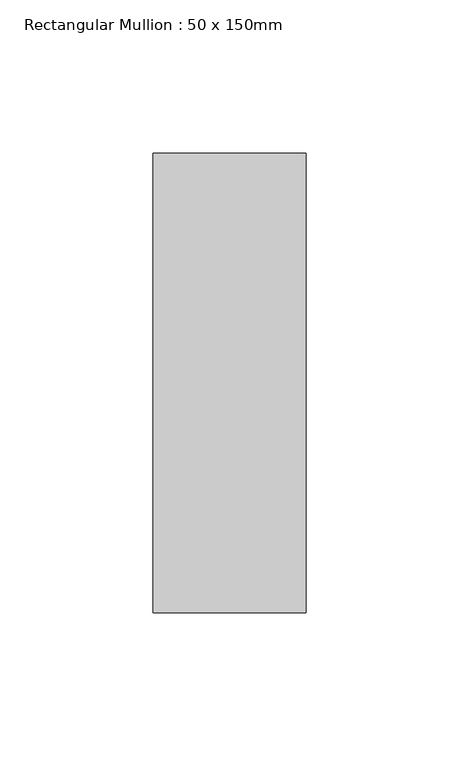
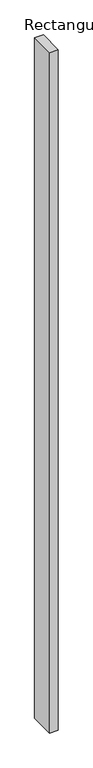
"""IFC4 building model written with IfcOpenShell, lengths in millimetres: member geometry, Rectangular Mullion : 50 x 150mm."""

from ifc_helpers import new_model, si_unit, frame, origin, place, context, project, spatial, polyline, outline, extrude, source, transform, mapped, element, save


def rectangular_mullion_50_x_150mm_b34d1ea9(model_context):
    return source(origin(), model_context, "Body", "SweptSolid", [
        extrude(outline(polyline([(0.0, 75.0), (0.0, -75.0), (-50.0, -75.0), (-50.0, 75.0), (0.0, 75.0)])), frame((0.0, 0.0, -4185.0), z_axis=(0.0, 0.0, 1.0), x_axis=(1.0, 0.0, 0.0)), (0.0, 0.0, 1.0), 4185.0),
    ])


if __name__ == "__main__":
    model = new_model("IFC4")
    model_context = context("Model", 3, world=origin())
    ifc_project = project(units=[si_unit("LENGTHUNIT", "METRE", prefix="MILLI")], contexts=[model_context])
    site = spatial("IfcSite", under=ifc_project)
    building = spatial("IfcBuilding", under=site)
    placement = place(None, origin())
    rectangular_mullion_50_x_150mm_shape = rectangular_mullion_50_x_150mm_b34d1ea9(model_context)
    element("IfcMember", 1, ObjectType="Rectangular Mullion : 50 x 150mm", at=placement, inside=building, context=model_context, shape_type="MappedRepresentation", body=[
        mapped(rectangular_mullion_50_x_150mm_shape, transform((0.0, 0.0, 0.0), x_axis=(1.0, 0.0, 0.0), y_axis=(0.0, 1.0, 0.0), z_axis=(0.0, 0.0, 1.0))),
    ])
    save(model, "model.ifc")
